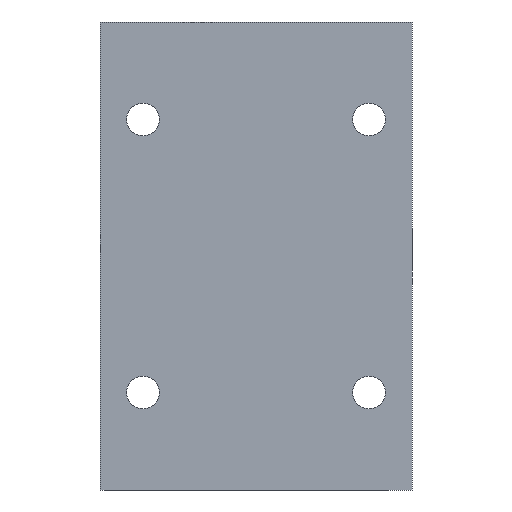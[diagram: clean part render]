
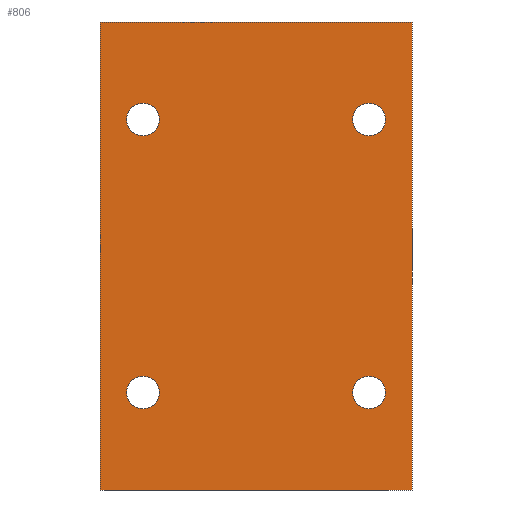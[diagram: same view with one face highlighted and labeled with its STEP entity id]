
A CAD part, front view. The second image highlights one B-rep face of the part: STEP entity #806.
In plain terms, the highlighted planar face has unit normal (0, -1, 0).
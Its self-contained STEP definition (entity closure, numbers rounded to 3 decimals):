
#4 = EDGE_CURVE ( 'NONE', #359, #234, #584, .T. ) ;
#32 = EDGE_CURVE ( 'NONE', #1004, #232, #911, .T. ) ;
#39 = CARTESIAN_POINT ( 'NONE',  ( -20., -16.5, 30. ) ) ;
#43 = CARTESIAN_POINT ( 'NONE',  ( 14.5, -16.5, -17.5 ) ) ;
#44 = CARTESIAN_POINT ( 'NONE',  ( -20., -16.5, 30. ) ) ;
#54 = VECTOR ( 'NONE', #65, 1000. ) ;
#56 = ORIENTED_EDGE ( 'NONE', *, *, #161, .F. ) ;
#65 = DIRECTION ( 'NONE',  ( 1., 0., 0. ) ) ;
#73 = AXIS2_PLACEMENT_3D ( 'NONE', #701, #424, #1058 ) ;
#74 = VERTEX_POINT ( 'NONE', #866 ) ;
#88 = CIRCLE ( 'NONE', #758, 2.1 ) ;
#132 = CARTESIAN_POINT ( 'NONE',  ( 14.5, -16.5, -17.5 ) ) ;
#140 = LINE ( 'NONE', #617, #750 ) ;
#151 = PLANE ( 'NONE',  #387 ) ;
#161 = EDGE_CURVE ( 'NONE', #232, #1004, #952, .T. ) ;
#176 = ORIENTED_EDGE ( 'NONE', *, *, #32, .F. ) ;
#185 = VECTOR ( 'NONE', #502, 1000. ) ;
#199 = DIRECTION ( 'NONE',  ( 0., -1., 0. ) ) ;
#226 = DIRECTION ( 'NONE',  ( 0., -1., 0. ) ) ;
#232 = VERTEX_POINT ( 'NONE', #804 ) ;
#234 = VERTEX_POINT ( 'NONE', #434 ) ;
#239 = DIRECTION ( 'NONE',  ( 0., 0., -1. ) ) ;
#244 = ORIENTED_EDGE ( 'NONE', *, *, #611, .F. ) ;
#251 = FACE_BOUND ( 'NONE', #1148, .T. ) ;
#252 = VERTEX_POINT ( 'NONE', #44 ) ;
#261 = CARTESIAN_POINT ( 'NONE',  ( -20., -16.5, 30. ) ) ;
#310 = LINE ( 'NONE', #980, #185 ) ;
#350 = EDGE_LOOP ( 'NONE', ( #909, #244 ) ) ;
#354 = ORIENTED_EDGE ( 'NONE', *, *, #752, .F. ) ;
#357 = VERTEX_POINT ( 'NONE', #1136 ) ;
#359 = VERTEX_POINT ( 'NONE', #658 ) ;
#369 = EDGE_CURVE ( 'NONE', #357, #493, #88, .T. ) ;
#377 = CARTESIAN_POINT ( 'NONE',  ( 20., -16.5, 30. ) ) ;
#387 = AXIS2_PLACEMENT_3D ( 'NONE', #39, #1083, #612 ) ;
#390 = VERTEX_POINT ( 'NONE', #377 ) ;
#393 = DIRECTION ( 'NONE',  ( 0., 0., -1. ) ) ;
#407 = DIRECTION ( 'NONE',  ( 0., 0., -1. ) ) ;
#414 = DIRECTION ( 'NONE',  ( 0., -1., 0. ) ) ;
#416 = DIRECTION ( 'NONE',  ( 0., -1., 0. ) ) ;
#417 = VECTOR ( 'NONE', #940, 1000. ) ;
#424 = DIRECTION ( 'NONE',  ( 0., -1., 0. ) ) ;
#434 = CARTESIAN_POINT ( 'NONE',  ( 14.5, -16.5, 15.4 ) ) ;
#439 = ORIENTED_EDGE ( 'NONE', *, *, #640, .F. ) ;
#452 = ORIENTED_EDGE ( 'NONE', *, *, #769, .F. ) ;
#455 = VERTEX_POINT ( 'NONE', #881 ) ;
#464 = AXIS2_PLACEMENT_3D ( 'NONE', #600, #416, #239 ) ;
#493 = VERTEX_POINT ( 'NONE', #974 ) ;
#502 = DIRECTION ( 'NONE',  ( 0., 0., -1. ) ) ;
#509 = CARTESIAN_POINT ( 'NONE',  ( -14.5, -16.5, -17.5 ) ) ;
#518 = CARTESIAN_POINT ( 'NONE',  ( 14.5, -16.5, 17.5 ) ) ;
#556 = CIRCLE ( 'NONE', #1142, 2.1 ) ;
#584 = CIRCLE ( 'NONE', #1125, 2.1 ) ;
#587 = AXIS2_PLACEMENT_3D ( 'NONE', #509, #687, #1177 ) ;
#594 = CARTESIAN_POINT ( 'NONE',  ( 20., -16.5, -30. ) ) ;
#596 = FACE_BOUND ( 'NONE', #350, .T. ) ;
#600 = CARTESIAN_POINT ( 'NONE',  ( -14.5, -16.5, 17.5 ) ) ;
#611 = EDGE_CURVE ( 'NONE', #74, #1209, #942, .T. ) ;
#612 = DIRECTION ( 'NONE',  ( 0., 0., 1. ) ) ;
#614 = DIRECTION ( 'NONE',  ( 0., 0., -1. ) ) ;
#616 = CIRCLE ( 'NONE', #587, 2.1 ) ;
#617 = CARTESIAN_POINT ( 'NONE',  ( -20., -16.5, 30. ) ) ;
#632 = ORIENTED_EDGE ( 'NONE', *, *, #906, .T. ) ;
#634 = CARTESIAN_POINT ( 'NONE',  ( -14.5, -16.5, -17.5 ) ) ;
#638 = CIRCLE ( 'NONE', #715, 2.1 ) ;
#639 = EDGE_LOOP ( 'NONE', ( #452, #1176 ) ) ;
#640 = EDGE_CURVE ( 'NONE', #252, #390, #991, .T. ) ;
#658 = CARTESIAN_POINT ( 'NONE',  ( 14.5, -16.5, 19.6 ) ) ;
#660 = LINE ( 'NONE', #1034, #417 ) ;
#687 = DIRECTION ( 'NONE',  ( 0., -1., 0. ) ) ;
#701 = CARTESIAN_POINT ( 'NONE',  ( -14.5, -16.5, 17.5 ) ) ;
#715 = AXIS2_PLACEMENT_3D ( 'NONE', #518, #226, #1066 ) ;
#750 = VECTOR ( 'NONE', #993, 1000. ) ;
#752 = EDGE_CURVE ( 'NONE', #493, #357, #556, .T. ) ;
#758 = AXIS2_PLACEMENT_3D ( 'NONE', #132, #199, #393 ) ;
#769 = EDGE_CURVE ( 'NONE', #234, #359, #638, .T. ) ;
#790 = FACE_BOUND ( 'NONE', #1203, .T. ) ;
#794 = DIRECTION ( 'NONE',  ( 0., 0., -1. ) ) ;
#804 = CARTESIAN_POINT ( 'NONE',  ( -14.5, -16.5, 19.6 ) ) ;
#806 = ADVANCED_FACE ( 'NONE', ( #790, #251, #596, #1075, #1187 ), #151, .F. ) ;
#847 = EDGE_CURVE ( 'NONE', #390, #1116, #310, .T. ) ;
#855 = EDGE_CURVE ( 'NONE', #1209, #74, #616, .T. ) ;
#866 = CARTESIAN_POINT ( 'NONE',  ( -14.5, -16.5, -15.4 ) ) ;
#881 = CARTESIAN_POINT ( 'NONE',  ( -20., -16.5, -30. ) ) ;
#883 = CARTESIAN_POINT ( 'NONE',  ( 14.5, -16.5, 17.5 ) ) ;
#888 = ORIENTED_EDGE ( 'NONE', *, *, #369, .F. ) ;
#896 = ORIENTED_EDGE ( 'NONE', *, *, #1029, .T. ) ;
#898 = ORIENTED_EDGE ( 'NONE', *, *, #847, .F. ) ;
#906 = EDGE_CURVE ( 'NONE', #455, #1116, #660, .T. ) ;
#909 = ORIENTED_EDGE ( 'NONE', *, *, #855, .F. ) ;
#911 = CIRCLE ( 'NONE', #73, 2.1 ) ;
#922 = DIRECTION ( 'NONE',  ( 0., -1., 0. ) ) ;
#940 = DIRECTION ( 'NONE',  ( 1., 0., 0. ) ) ;
#942 = CIRCLE ( 'NONE', #990, 2.1 ) ;
#952 = CIRCLE ( 'NONE', #464, 2.1 ) ;
#959 = DIRECTION ( 'NONE',  ( 0., -1., 0. ) ) ;
#974 = CARTESIAN_POINT ( 'NONE',  ( 14.5, -16.5, -19.6 ) ) ;
#980 = CARTESIAN_POINT ( 'NONE',  ( 20., -16.5, 30. ) ) ;
#990 = AXIS2_PLACEMENT_3D ( 'NONE', #634, #922, #614 ) ;
#991 = LINE ( 'NONE', #261, #54 ) ;
#993 = DIRECTION ( 'NONE',  ( 0., 0., -1. ) ) ;
#1004 = VERTEX_POINT ( 'NONE', #1098 ) ;
#1009 = EDGE_LOOP ( 'NONE', ( #632, #898, #439, #896 ) ) ;
#1020 = CARTESIAN_POINT ( 'NONE',  ( -14.5, -16.5, -19.6 ) ) ;
#1029 = EDGE_CURVE ( 'NONE', #252, #455, #140, .T. ) ;
#1034 = CARTESIAN_POINT ( 'NONE',  ( -20., -16.5, -30. ) ) ;
#1058 = DIRECTION ( 'NONE',  ( 0., 0., -1. ) ) ;
#1066 = DIRECTION ( 'NONE',  ( 0., 0., -1. ) ) ;
#1075 = FACE_BOUND ( 'NONE', #639, .T. ) ;
#1083 = DIRECTION ( 'NONE',  ( 0., 1., 0. ) ) ;
#1098 = CARTESIAN_POINT ( 'NONE',  ( -14.5, -16.5, 15.4 ) ) ;
#1116 = VERTEX_POINT ( 'NONE', #594 ) ;
#1125 = AXIS2_PLACEMENT_3D ( 'NONE', #883, #414, #794 ) ;
#1136 = CARTESIAN_POINT ( 'NONE',  ( 14.5, -16.5, -15.4 ) ) ;
#1142 = AXIS2_PLACEMENT_3D ( 'NONE', #43, #959, #407 ) ;
#1148 = EDGE_LOOP ( 'NONE', ( #176, #56 ) ) ;
#1176 = ORIENTED_EDGE ( 'NONE', *, *, #4, .F. ) ;
#1177 = DIRECTION ( 'NONE',  ( 0., 0., -1. ) ) ;
#1187 = FACE_OUTER_BOUND ( 'NONE', #1009, .T. ) ;
#1203 = EDGE_LOOP ( 'NONE', ( #354, #888 ) ) ;
#1209 = VERTEX_POINT ( 'NONE', #1020 ) ;
